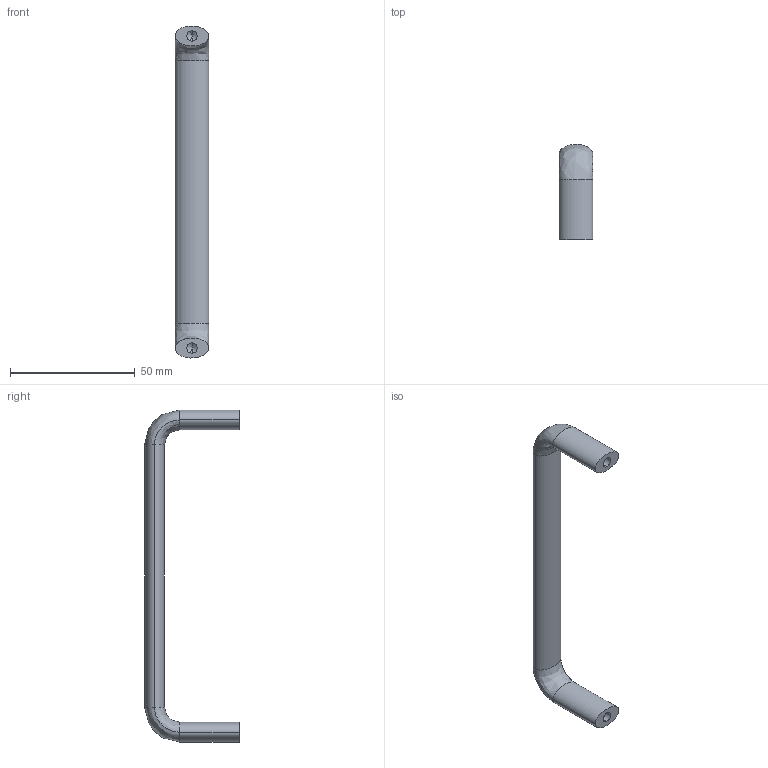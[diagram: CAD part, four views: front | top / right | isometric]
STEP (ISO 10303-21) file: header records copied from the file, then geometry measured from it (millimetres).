
FILE_DESCRIPTION (( 'STEP AP203' ), '1' );
FILE_NAME ('E02-516125.STEP', '2024-10-29T02:56:27', ( '' ), ( '' ), 'SwSTEP 2.0', 'SolidWorks 2021', '' );
FILE_SCHEMA (( 'CONFIG_CONTROL_DESIGN' ));
Length unit declared in the file: millimetre
Products named in the file (1): E02-516125
Bounding box: 13.47 x 37.98 x 132.96 mm (x, y, z)
Volume: 15239.5 mm3; surface area: 6838.9 mm2
Topology: 1 solids, 1 shells, 20 faces, 42 edges, 22 vertices
Faces by surface type: bspline 10, cylinder 4, cone 4, plane 2
Entity records: 707 total; most frequent: CARTESIAN_POINT 321, ORIENTED_EDGE 76, DIRECTION 46, EDGE_CURVE 38, EDGE_LOOP 22, VERTEX_POINT 22, ADVANCED_FACE 20, FACE_OUTER_BOUND 20
